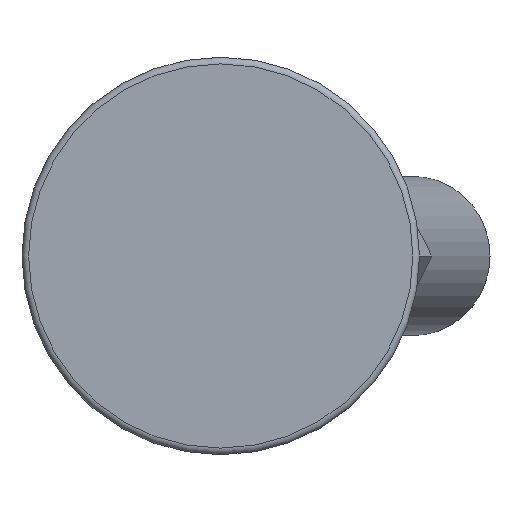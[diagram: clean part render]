
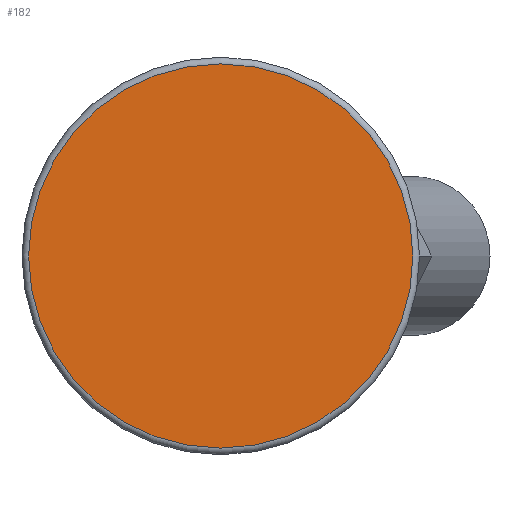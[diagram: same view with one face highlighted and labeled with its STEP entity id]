
A CAD part, front view. The second image highlights one B-rep face of the part: STEP entity #182.
In plain terms, the highlighted planar face has unit normal (0, -1, 0).
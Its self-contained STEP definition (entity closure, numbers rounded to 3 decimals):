
#182 = ADVANCED_FACE( '', ( #362 ), #363, .F. );
#362 = FACE_OUTER_BOUND( '', #558, .T. );
#363 = PLANE( '', #559 );
#558 = EDGE_LOOP( '', ( #825 ) );
#559 = AXIS2_PLACEMENT_3D( '', #826, #827, #828 );
#825 = ORIENTED_EDGE( '', *, *, #1171, .T. );
#826 = CARTESIAN_POINT( '', ( 29., 0., 0. ) );
#827 = DIRECTION( '', ( 0., 1., 0. ) );
#828 = DIRECTION( '', ( 0., 0., 1. ) );
#1171 = EDGE_CURVE( '', #1372, #1372, #1373, .T. );
#1372 = VERTEX_POINT( '', #1788 );
#1373 = CIRCLE( '', #1789, 29. );
#1788 = CARTESIAN_POINT( '', ( 0., 0., -29. ) );
#1789 = AXIS2_PLACEMENT_3D( '', #2070, #2071, #2072 );
#2070 = CARTESIAN_POINT( '', ( 0., 0., 0. ) );
#2071 = DIRECTION( '', ( 0., -1., 0. ) );
#2072 = DIRECTION( '', ( 0., 0., -1. ) );
